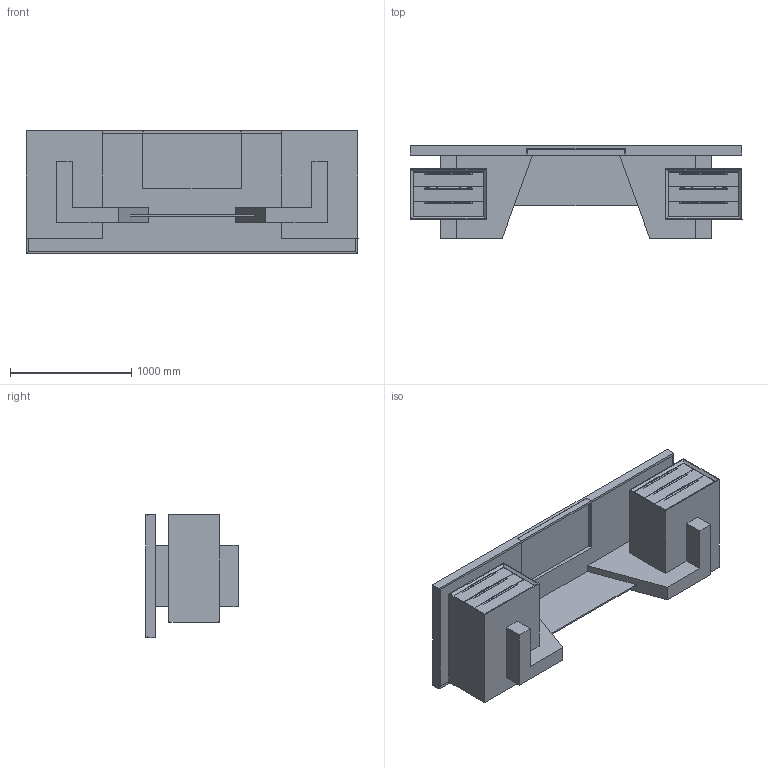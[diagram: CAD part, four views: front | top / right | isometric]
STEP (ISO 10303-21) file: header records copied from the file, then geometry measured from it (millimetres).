
FILE_DESCRIPTION(/* description */ ('','CAx-IF Rec.Pracs.---Representation and Presentation of Product Manufacturing Information (PMI)---4.0---2014-10-13'),/* implementation_level */ '2;1');
FILE_NAME(/* name */ 'DATUM^PO2.stp',/* time_stamp */ '2024-12-05T18:36:45-05:00',/* author */ ('mbowman'),/* organization */ (''),/* preprocessor_version */ 'ST-DEVELOPER v19.2',/* originating_system */ 'Autodesk Inventor 2023',/* authorisation */ '');
FILE_SCHEMA (('AP242_MANAGED_MODEL_BASED_3D_ENGINEERING_MIM_LF { 1 0 10303 442 1 1 4 }'));
Length unit declared in the file: inch
Products named in the file (11): DATUM^OFFICE 2_DESK-SOLID ASSEMBLY; DATUM^OFFICE 2_DESK-WORKSURFACE; DATUM^OFFICE 2_DESK-LEFT BASE; DATUM^OFFICE 2_DESK-RIGHT BASE; DATUM^OFFICE 2_DESK-PEDESTAL; DATUM^OFFICE 2_DESK-PEDESTAL_1; 2024_04_02_19_06_09_0566; 2024_04_02_19_06_09_0661; 2024_04_02_19_06_09_0645; DATUM^OFFICE 2_DESK-ACRYLIC; DATUM^OFFICES_CENTER DRAWER-32in DRAWER FRT
Assembly tree (13 placements, depth 4):
  DATUM^OFFICE 2_DESK-SOLID ASSEMBLY
    DATUM^OFFICE 2_DESK-WORKSURFACE
    DATUM^OFFICE 2_DESK-LEFT BASE
    DATUM^OFFICE 2_DESK-RIGHT BASE
    DATUM^OFFICE 2_DESK-PEDESTAL  x2
      2024_04_02_19_06_09_0566
        2024_04_02_19_06_09_0661
        2024_04_02_19_06_09_0645
      DATUM^OFFICE 2_DESK-PEDESTAL_1
    DATUM^OFFICE 2_DESK-ACRYLIC
    DATUM^OFFICES_CENTER DRAWER-32in DRAWER FRT
Bounding box: 2743.2 x 762 x 1019.92 mm (x, y, z)
Volume: 342581365 mm3; surface area: 25365635.6 mm2
Topology: 38 solids, 38 shells, 1676 faces, 3474 edges, 1922 vertices
Faces by surface type: cone 1320, plane 326, cylinder 30
Full cylindrical faces by diameter (mm): 0 x6, 3.5 x24
Entity records: 11453 total; most frequent: CARTESIAN_POINT 2018, DIRECTION 1953, ORIENTED_EDGE 1614, EDGE_CURVE 807, AXIS2_PLACEMENT_3D 688, LINE 577, VECTOR 577, VERTEX_POINT 475
